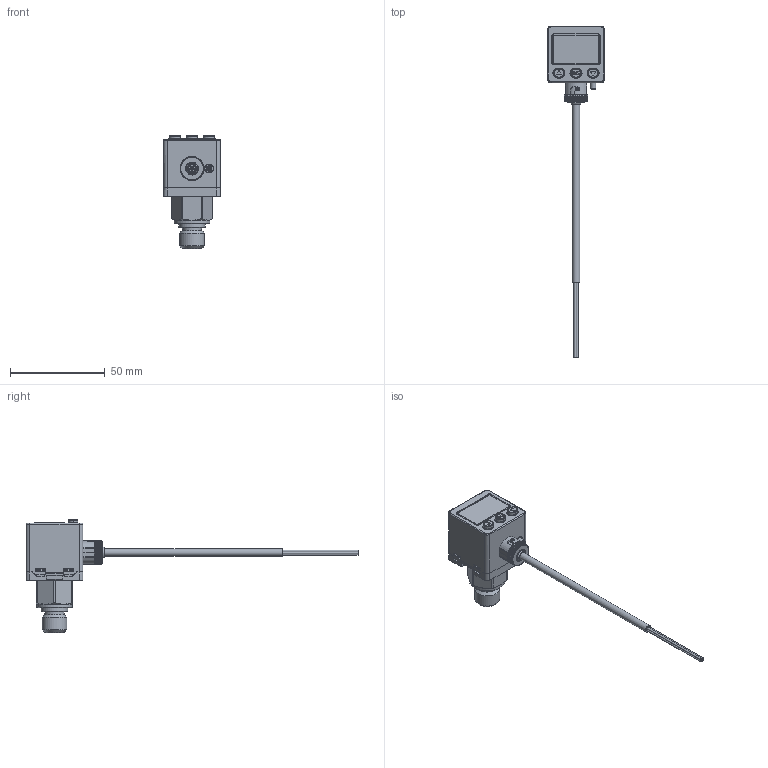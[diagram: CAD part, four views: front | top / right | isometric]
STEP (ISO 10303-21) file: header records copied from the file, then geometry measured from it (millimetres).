
FILE_DESCRIPTION(('STEP AP203'),'1');
FILE_NAME('-F3.stp','2025-06-20T03:02:18',(' '),(' '),'Spatial InterOp 3D',' ',' ');
FILE_SCHEMA(('CONFIG_CONTROL_DESIGN'));
Length unit declared in the file: millimetre
Products named in the file (1): 1
Bounding box: 30.08 x 175.34 x 59.7 mm (x, y, z)
Volume: 35205.7 mm3; surface area: 10896.2 mm2
Topology: 1 solids, 2 shells, 896 faces, 2424 edges, 1574 vertices
Faces by surface type: plane 401, cylinder 255, cone 152, bspline 64, torus 14, extrusion 6, sphere 4
Full cylindrical faces by diameter (mm): 1.85 x2, 3.5 x2, 4 x1, 4.2 x2, 6.2 x1, 10.157 x1, 13.157 x1, 14 x1, 18.8 x1
Entity records: 34632 total; most frequent: CARTESIAN_POINT 13235, ORIENTED_EDGE 4732, DIRECTION 4035, EDGE_CURVE 2366, VERTEX_POINT 1554, AXIS2_PLACEMENT_3D 1455, VECTOR 1125, LINE 1119
